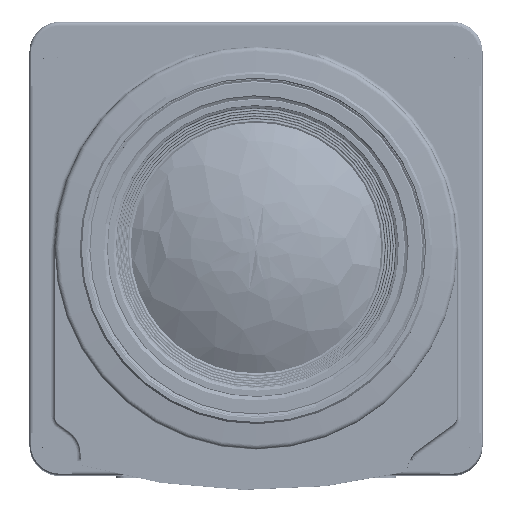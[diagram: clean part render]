
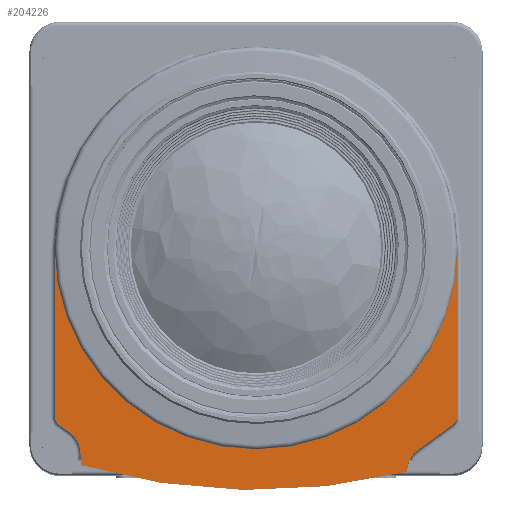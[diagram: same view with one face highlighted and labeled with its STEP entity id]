
A CAD part, top view. The second image highlights one B-rep face of the part: STEP entity #204226.
In plain terms, the highlighted planar face has unit normal (0, 0, 1).
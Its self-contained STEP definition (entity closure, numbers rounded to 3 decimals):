
#2507 = LINE ( 'NONE', #116379, #214254 ) ;
#6527 = VERTEX_POINT ( 'NONE', #134566 ) ;
#6541 = LINE ( 'NONE', #248435, #221661 ) ;
#7696 = CARTESIAN_POINT ( 'NONE',  ( 0., 76.998, 82.7 ) ) ;
#8564 = DIRECTION ( 'NONE',  ( 0., 0., 1. ) ) ;
#8906 = CIRCLE ( 'NONE', #205141, 5.43 ) ;
#10188 = CIRCLE ( 'NONE', #57834, 125. ) ;
#20448 = VERTEX_POINT ( 'NONE', #31121 ) ;
#21093 = CIRCLE ( 'NONE', #47190, 40. ) ;
#25268 = ORIENTED_EDGE ( 'NONE', *, *, #209559, .T. ) ;
#28033 = DIRECTION ( 'NONE',  ( 0., 1., 0. ) ) ;
#28235 = CARTESIAN_POINT ( 'NONE',  ( -34.85, -43.045, 82.7 ) ) ;
#29494 = VERTEX_POINT ( 'NONE', #173471 ) ;
#29526 = DIRECTION ( 'NONE',  ( 0., 1., 0. ) ) ;
#31121 = CARTESIAN_POINT ( 'NONE',  ( 32.237, -40.056, 82.7 ) ) ;
#35647 = EDGE_CURVE ( 'NONE', #199209, #213567, #6541, .T. ) ;
#36517 = EDGE_CURVE ( 'NONE', #193179, #20448, #152751, .T. ) ;
#41639 = DIRECTION ( 'NONE',  ( 0., 1., 0. ) ) ;
#42490 = CARTESIAN_POINT ( 'NONE',  ( 0., -0.002, 82.7 ) ) ;
#45167 = ORIENTED_EDGE ( 'NONE', *, *, #189756, .F. ) ;
#47190 = AXIS2_PLACEMENT_3D ( 'NONE', #208747, #8564, #29526 ) ;
#51205 = FACE_OUTER_BOUND ( 'NONE', #181270, .T. ) ;
#55460 = DIRECTION ( 'NONE',  ( 0., 1., 0. ) ) ;
#57834 = AXIS2_PLACEMENT_3D ( 'NONE', #7696, #225334, #205274 ) ;
#60468 = CARTESIAN_POINT ( 'NONE',  ( 0., -40.002, 82.7 ) ) ;
#67483 = DIRECTION ( 'NONE',  ( -0.809, -0.588, 0. ) ) ;
#68956 = CARTESIAN_POINT ( 'NONE',  ( 0., -0.002, 82.7 ) ) ;
#71735 = AXIS2_PLACEMENT_3D ( 'NONE', #42490, #80861, #41639 ) ;
#75351 = CARTESIAN_POINT ( 'NONE',  ( 38., -33.397, 82.7 ) ) ;
#79124 = PLANE ( 'NONE',  #71735 ) ;
#80861 = DIRECTION ( 'NONE',  ( 0., 0., -1. ) ) ;
#84214 = ORIENTED_EDGE ( 'NONE', *, *, #94478, .F. ) ;
#87353 = ORIENTED_EDGE ( 'NONE', *, *, #141363, .F. ) ;
#91395 = EDGE_CURVE ( 'NONE', #223044, #247296, #206644, .T. ) ;
#94478 = EDGE_CURVE ( 'NONE', #6527, #199209, #10188, .T. ) ;
#95249 = AXIS2_PLACEMENT_3D ( 'NONE', #189861, #250751, #114087 ) ;
#96024 = CARTESIAN_POINT ( 'NONE',  ( -40., -34.302, 82.7 ) ) ;
#98635 = DIRECTION ( 'NONE',  ( -0.809, 0.588, 0. ) ) ;
#99856 = VECTOR ( 'NONE', #67483, 1000. ) ;
#100102 = AXIS2_PLACEMENT_3D ( 'NONE', #75351, #175454, #217114 ) ;
#100753 = VERTEX_POINT ( 'NONE', #208437 ) ;
#101335 = ORIENTED_EDGE ( 'NONE', *, *, #115038, .F. ) ;
#103886 = CIRCLE ( 'NONE', #136620, 40. ) ;
#106345 = CARTESIAN_POINT ( 'NONE',  ( 40., -0.002, 82.7 ) ) ;
#112831 = AXIS2_PLACEMENT_3D ( 'NONE', #124969, #215301, #217011 ) ;
#114087 = DIRECTION ( 'NONE',  ( 0., 1., 0. ) ) ;
#115038 = EDGE_CURVE ( 'NONE', #213567, #29494, #208815, .T. ) ;
#116108 = ORIENTED_EDGE ( 'NONE', *, *, #193790, .T. ) ;
#116379 = CARTESIAN_POINT ( 'NONE',  ( -40., -0.002, 82.7 ) ) ;
#117686 = CARTESIAN_POINT ( 'NONE',  ( 35.429, -44.449, 82.7 ) ) ;
#120170 = EDGE_CURVE ( 'NONE', #29494, #122957, #253407, .T. ) ;
#120889 = ORIENTED_EDGE ( 'NONE', *, *, #120170, .F. ) ;
#122957 = VERTEX_POINT ( 'NONE', #127199 ) ;
#124969 = CARTESIAN_POINT ( 'NONE',  ( -38., -33.283, 82.7 ) ) ;
#127199 = CARTESIAN_POINT ( 'NONE',  ( -39.176, -34.901, 82.7 ) ) ;
#127506 = CARTESIAN_POINT ( 'NONE',  ( 30., -41.682, 82.7 ) ) ;
#134566 = CARTESIAN_POINT ( 'NONE',  ( 30., -44.348, 82.7 ) ) ;
#134932 = CIRCLE ( 'NONE', #112831, 2. ) ;
#136620 = AXIS2_PLACEMENT_3D ( 'NONE', #68956, #209812, #28033 ) ;
#140360 = DIRECTION ( 'NONE',  ( 0., 0., -1. ) ) ;
#141363 = EDGE_CURVE ( 'NONE', #100753, #151399, #21093, .T. ) ;
#150748 = ORIENTED_EDGE ( 'NONE', *, *, #36517, .F. ) ;
#151399 = VERTEX_POINT ( 'NONE', #60468 ) ;
#152751 = LINE ( 'NONE', #127506, #99856 ) ;
#154916 = VERTEX_POINT ( 'NONE', #255130 ) ;
#156976 = ORIENTED_EDGE ( 'NONE', *, *, #91395, .F. ) ;
#161795 = CARTESIAN_POINT ( 'NONE',  ( 40., -33.397, 82.7 ) ) ;
#166039 = EDGE_CURVE ( 'NONE', #154916, #122957, #134932, .T. ) ;
#168727 = CARTESIAN_POINT ( 'NONE',  ( -34.85, -40.744, 82.7 ) ) ;
#170991 = DIRECTION ( 'NONE',  ( 0., 1., 0. ) ) ;
#173471 = CARTESIAN_POINT ( 'NONE',  ( -37.035, -36.456, 82.7 ) ) ;
#175454 = DIRECTION ( 'NONE',  ( 0., 0., 1. ) ) ;
#177741 = DIRECTION ( 'NONE',  ( 0., 1., 0. ) ) ;
#181270 = EDGE_LOOP ( 'NONE', ( #194979, #205329, #120889, #101335, #203200, #84214, #116108, #150748, #25268, #156976, #45167, #87353 ) ) ;
#181722 = VECTOR ( 'NONE', #209173, 1000. ) ;
#189756 = EDGE_CURVE ( 'NONE', #151399, #223044, #103886, .T. ) ;
#189861 = CARTESIAN_POINT ( 'NONE',  ( -40.15, -40.744, 82.7 ) ) ;
#193179 = VERTEX_POINT ( 'NONE', #249586 ) ;
#193790 = EDGE_CURVE ( 'NONE', #6527, #20448, #8906, .T. ) ;
#194979 = ORIENTED_EDGE ( 'NONE', *, *, #240514, .F. ) ;
#196297 = CIRCLE ( 'NONE', #100102, 2. ) ;
#199209 = VERTEX_POINT ( 'NONE', #28235 ) ;
#203200 = ORIENTED_EDGE ( 'NONE', *, *, #35647, .F. ) ;
#204226 = ADVANCED_FACE ( 'NONE', ( #51205 ), #79124, .F. ) ;
#205141 = AXIS2_PLACEMENT_3D ( 'NONE', #117686, #140360, #177741 ) ;
#205274 = DIRECTION ( 'NONE',  ( 0., 1., 0. ) ) ;
#205329 = ORIENTED_EDGE ( 'NONE', *, *, #166039, .T. ) ;
#206644 = LINE ( 'NONE', #248357, #181722 ) ;
#208437 = CARTESIAN_POINT ( 'NONE',  ( -40., -0.002, 82.7 ) ) ;
#208747 = CARTESIAN_POINT ( 'NONE',  ( 0., -0.002, 82.7 ) ) ;
#208815 = CIRCLE ( 'NONE', #95249, 5.3 ) ;
#209173 = DIRECTION ( 'NONE',  ( 0., -1., 0. ) ) ;
#209559 = EDGE_CURVE ( 'NONE', #193179, #247296, #196297, .T. ) ;
#209812 = DIRECTION ( 'NONE',  ( 0., 0., 1. ) ) ;
#213567 = VERTEX_POINT ( 'NONE', #168727 ) ;
#214254 = VECTOR ( 'NONE', #55460, 1000. ) ;
#215301 = DIRECTION ( 'NONE',  ( 0., 0., 1. ) ) ;
#217011 = DIRECTION ( 'NONE',  ( 0., 1., 0. ) ) ;
#217114 = DIRECTION ( 'NONE',  ( 0., 1., 0. ) ) ;
#221661 = VECTOR ( 'NONE', #170991, 1000. ) ;
#223044 = VERTEX_POINT ( 'NONE', #106345 ) ;
#225334 = DIRECTION ( 'NONE',  ( 0., 0., -1. ) ) ;
#228779 = VECTOR ( 'NONE', #98635, 1000. ) ;
#240514 = EDGE_CURVE ( 'NONE', #154916, #100753, #2507, .T. ) ;
#247296 = VERTEX_POINT ( 'NONE', #161795 ) ;
#248357 = CARTESIAN_POINT ( 'NONE',  ( 40., -0.002, 82.7 ) ) ;
#248435 = CARTESIAN_POINT ( 'NONE',  ( -34.85, -43.045, 82.7 ) ) ;
#249586 = CARTESIAN_POINT ( 'NONE',  ( 39.176, -35.015, 82.7 ) ) ;
#250751 = DIRECTION ( 'NONE',  ( 0., 0., 1. ) ) ;
#253407 = LINE ( 'NONE', #96024, #228779 ) ;
#255130 = CARTESIAN_POINT ( 'NONE',  ( -40., -33.283, 82.7 ) ) ;
